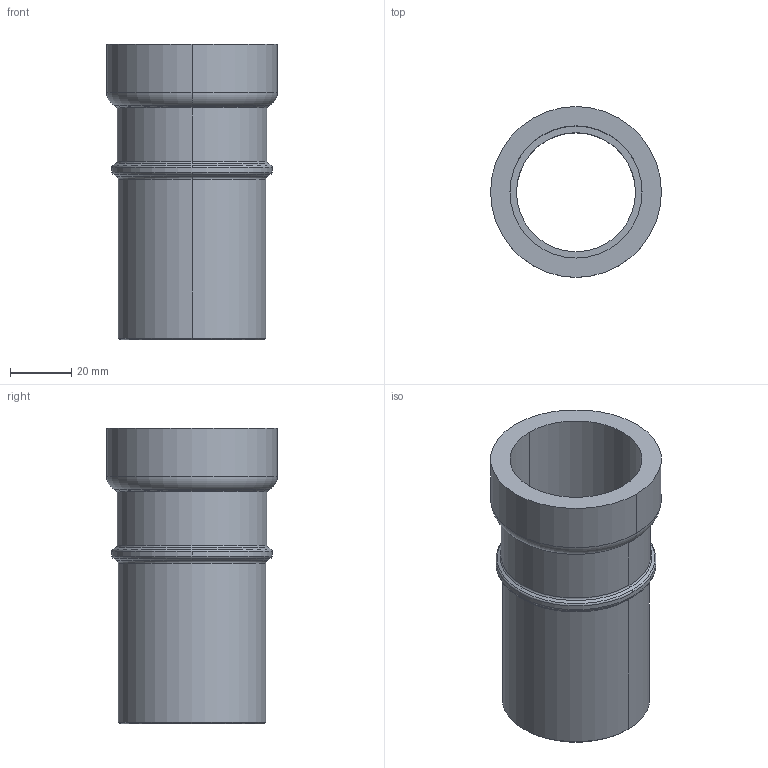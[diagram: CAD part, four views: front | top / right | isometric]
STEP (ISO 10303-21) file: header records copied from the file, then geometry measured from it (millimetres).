
FILE_DESCRIPTION(('Creo Elements/Direct Modeling STEP Export'),'2;1');
FILE_NAME('C9407_1-1-4_1-1-2.stp','2020-06-23T13:50:55',(''),(''),'PTC Creo Elements/Direct Modeling STEP processor for AP214 (Solid Model)','PTC Creo Elements/Direct Modeling 19.0C 15-Aug-2015 (C) Parametric Technology GmbH','');
FILE_SCHEMA(('AUTOMOTIVE_DESIGN { 1 0 10303 214 1 1 1 1 }'));
Length unit declared in the file: millimetre
Products named in the file (2): 9407_1-1-4_1-1-2
Assembly tree (1 placements, depth 2):
  9407_1-1-4_1-1-2
    9407_1-1-4_1-1-2
Bounding box: 56 x 56 x 96.88 mm (x, y, z)
Volume: 62702.7 mm3; surface area: 30183.3 mm2
Topology: 1 solids, 1 shells, 35 faces, 92 edges, 60 vertices
Faces by surface type: cylinder 12, torus 12, cone 8, plane 3
Entity records: 970 total; most frequent: ORIENTED_EDGE 184, DIRECTION 156, CARTESIAN_POINT 148, EDGE_CURVE 92, AXIS2_PLACEMENT_3D 68, VERTEX_POINT 60, EDGE_LOOP 38, FACE_OUTER_BOUND 35
